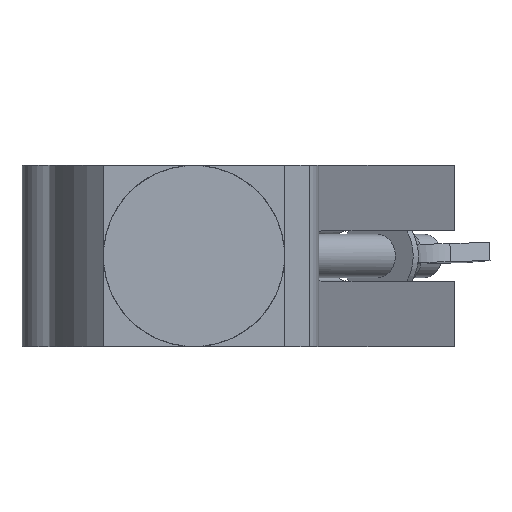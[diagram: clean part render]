
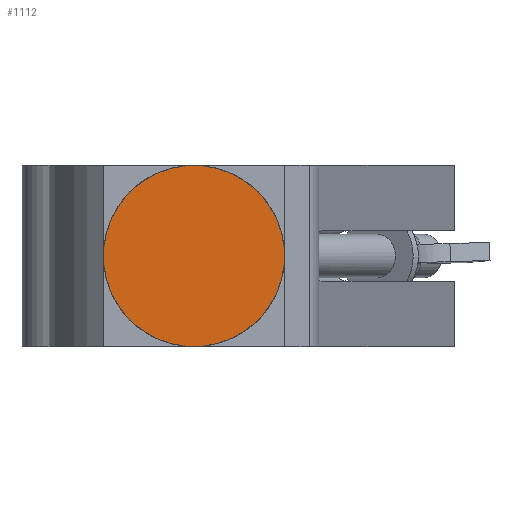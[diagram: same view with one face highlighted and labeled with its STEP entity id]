
A CAD part, front view. The second image highlights one B-rep face of the part: STEP entity #1112.
In plain terms, the highlighted planar face has unit normal (0, -1, 0).
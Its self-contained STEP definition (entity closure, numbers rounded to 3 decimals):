
#261=FACE_OUTER_BOUND('',#319,.T.);
#319=EDGE_LOOP('',(#690));
#382=CIRCLE('',#1191,25.);
#425=VERTEX_POINT('',#1601);
#527=EDGE_CURVE('',#425,#425,#382,.T.);
#690=ORIENTED_EDGE('',*,*,#527,.T.);
#1016=PLANE('',#1190);
#1112=ADVANCED_FACE('',(#261),#1016,.T.);
#1190=AXIS2_PLACEMENT_3D('',#1600,#1294,#1295);
#1191=AXIS2_PLACEMENT_3D('',#1602,#1296,#1297);
#1294=DIRECTION('center_axis',(0.,-1.,0.));
#1295=DIRECTION('ref_axis',(0.707,0.,0.707));
#1296=DIRECTION('center_axis',(0.,-1.,0.));
#1297=DIRECTION('ref_axis',(-0.707,0.,0.707));
#1600=CARTESIAN_POINT('Origin',(-17.678,-112.,17.678));
#1601=CARTESIAN_POINT('',(17.678,-112.,-17.678));
#1602=CARTESIAN_POINT('Origin',(0.,-112.,0.));
